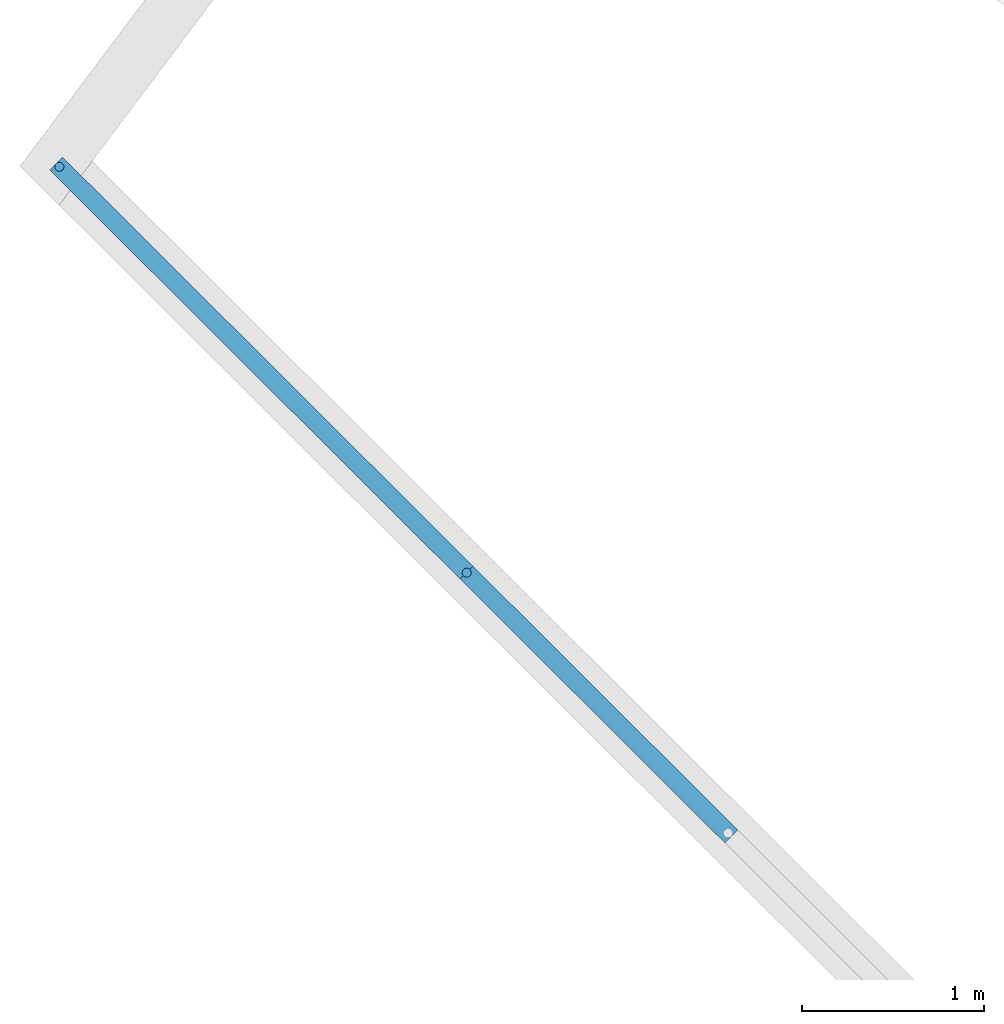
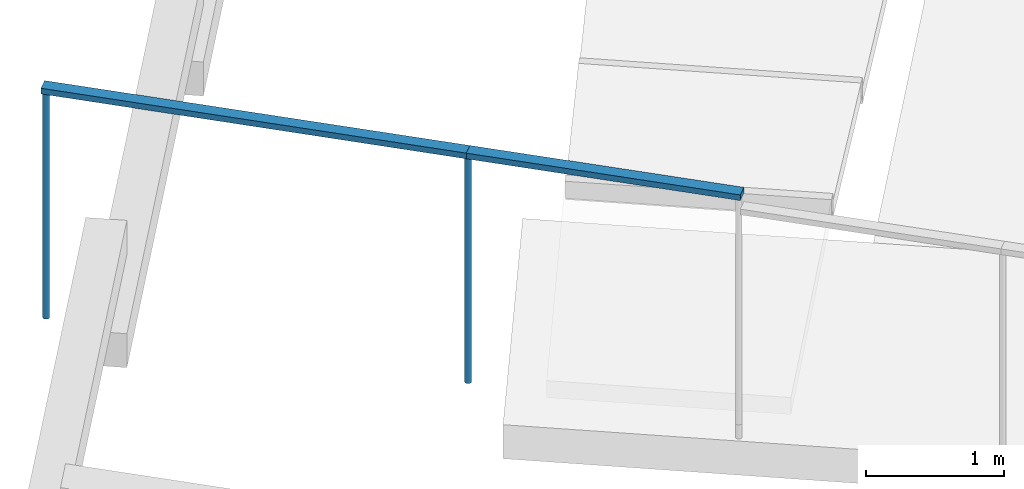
# One storey, part 13 of 33: 4 members, 1 element without a shape of its own.
"""IFC2X3 building model written with IfcOpenShell, lengths in metres."""

from ifc_helpers import new_model, entity, si_unit, converted_unit, derived_unit, direction, frame, frame_2d, origin, origin_2d_with_axis, place, context, subcontext, project, spatial, rectangle, circle, extrude, source, transform, mapped, material, type_object, type_shapes, element, aggregate, save


model = new_model("IFC2X3")

# Units and contexts
model_context = context("Model", 3, precision=1e-05, world=origin(), true_north=direction((6.123031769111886e-17, 1.0)))
body_context = subcontext(model_context, "Body", "Model", "MODEL_VIEW")
ifc_project = project(units=[si_unit("LENGTHUNIT", "METRE"), si_unit("AREAUNIT", "SQUARE_METRE"), si_unit("VOLUMEUNIT", "CUBIC_METRE"), converted_unit("PLANEANGLEUNIT", "DEGREE", entity("IfcRatioMeasure", 0.017453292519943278), si_unit("PLANEANGLEUNIT", "RADIAN"), dimensions=[0, 0, 0, 0, 0, 0, 0]), si_unit("MASSUNIT", "GRAM", prefix="KILO"), derived_unit("MASSDENSITYUNIT", [(si_unit("MASSUNIT", "GRAM", prefix="KILO"), 1), (si_unit("LENGTHUNIT", "METRE"), -3)]), derived_unit("IONCONCENTRATIONUNIT", [(si_unit("MASSUNIT", "GRAM", prefix="KILO"), 1), (si_unit("LENGTHUNIT", "METRE"), -3)]), derived_unit("MOMENTOFINERTIAUNIT", [(si_unit("LENGTHUNIT", "METRE"), 4)]), si_unit("TIMEUNIT", "SECOND"), si_unit("FREQUENCYUNIT", "HERTZ"), si_unit("THERMODYNAMICTEMPERATUREUNIT", "DEGREE_CELSIUS"), derived_unit("THERMALTRANSMITTANCEUNIT", [(si_unit("MASSUNIT", "GRAM", prefix="KILO"), 1), (si_unit("THERMODYNAMICTEMPERATUREUNIT", "KELVIN"), -1), (si_unit("TIMEUNIT", "SECOND"), -3)]), derived_unit("THERMALCONDUCTANCEUNIT", [(si_unit("MASSUNIT", "GRAM", prefix="KILO"), 1), (si_unit("THERMODYNAMICTEMPERATUREUNIT", "KELVIN"), -1), (si_unit("TIMEUNIT", "SECOND"), -3), (si_unit("LENGTHUNIT", "METRE"), 1)]), derived_unit("VOLUMETRICFLOWRATEUNIT", [(si_unit("LENGTHUNIT", "METRE"), 3), (si_unit("TIMEUNIT", "SECOND"), -1)]), derived_unit("MASSFLOWRATEUNIT", [(si_unit("MASSUNIT", "GRAM", prefix="KILO"), 1), (si_unit("TIMEUNIT", "SECOND"), -1)]), derived_unit("ROTATIONALFREQUENCYUNIT", [(si_unit("TIMEUNIT", "SECOND"), -1)]), si_unit("ELECTRICCURRENTUNIT", "AMPERE"), si_unit("ELECTRICVOLTAGEUNIT", "VOLT"), si_unit("POWERUNIT", "WATT"), si_unit("FORCEUNIT", "NEWTON", prefix="KILO"), si_unit("ILLUMINANCEUNIT", "LUX"), si_unit("LUMINOUSFLUXUNIT", "LUMEN"), si_unit("LUMINOUSINTENSITYUNIT", "CANDELA"), derived_unit("USERDEFINED", [(si_unit("MASSUNIT", "GRAM", prefix="KILO"), -1), (si_unit("LENGTHUNIT", "METRE"), -2), (si_unit("TIMEUNIT", "SECOND"), 3), (si_unit("LUMINOUSFLUXUNIT", "LUMEN"), 1)]), derived_unit("USERDEFINED", [(si_unit("MASSUNIT", "GRAM", prefix="KILO"), 1), (si_unit("TIMEUNIT", "SECOND"), -3), (si_unit("LENGTHUNIT", "METRE"), 3), (si_unit("ELECTRICCURRENTUNIT", "AMPERE"), -2)]), derived_unit("SOUNDPOWERUNIT", [(si_unit("MASSUNIT", "GRAM", prefix="KILO"), 1), (si_unit("TIMEUNIT", "SECOND"), -3), (si_unit("LENGTHUNIT", "METRE"), 2)]), derived_unit("SOUNDPRESSUREUNIT", [(si_unit("MASSUNIT", "GRAM", prefix="KILO"), 1), (si_unit("LENGTHUNIT", "METRE"), -1), (si_unit("TIMEUNIT", "SECOND"), -2)]), derived_unit("LINEARVELOCITYUNIT", [(si_unit("LENGTHUNIT", "METRE"), 1), (si_unit("TIMEUNIT", "SECOND"), -1)]), si_unit("PRESSUREUNIT", "PASCAL"), derived_unit("USERDEFINED", [(si_unit("MASSUNIT", "GRAM", prefix="KILO"), 1), (si_unit("LENGTHUNIT", "METRE"), -2), (si_unit("TIMEUNIT", "SECOND"), -2)]), derived_unit("LINEARFORCEUNIT", [(si_unit("MASSUNIT", "GRAM", prefix="KILO"), 1), (si_unit("TIMEUNIT", "SECOND"), -2)]), derived_unit("PLANARFORCEUNIT", [(si_unit("MASSUNIT", "GRAM", prefix="KILO"), 1), (si_unit("LENGTHUNIT", "METRE"), -1), (si_unit("TIMEUNIT", "SECOND"), -2)]), derived_unit("SPECIFICHEATCAPACITYUNIT", [(si_unit("THERMODYNAMICTEMPERATUREUNIT", "KELVIN"), -1), (si_unit("LENGTHUNIT", "METRE"), 2), (si_unit("TIMEUNIT", "SECOND"), -2)]), derived_unit("HEATINGVALUEUNIT", [(si_unit("LENGTHUNIT", "METRE"), 2), (si_unit("TIMEUNIT", "SECOND"), -2)]), derived_unit("VAPORPERMEABILITYUNIT", [(si_unit("LENGTHUNIT", "METRE"), -1), (si_unit("TIMEUNIT", "SECOND"), 1)]), derived_unit("DYNAMICVISCOSITYUNIT", [(si_unit("MASSUNIT", "GRAM", prefix="KILO"), 1), (si_unit("TIMEUNIT", "SECOND"), -1), (si_unit("LENGTHUNIT", "METRE"), -1)]), derived_unit("THERMALEXPANSIONCOEFFICIENTUNIT", [(si_unit("THERMODYNAMICTEMPERATUREUNIT", "KELVIN"), -1)]), derived_unit("MODULUSOFELASTICITYUNIT", [(si_unit("MASSUNIT", "GRAM", prefix="KILO"), 1), (si_unit("LENGTHUNIT", "METRE"), -1), (si_unit("TIMEUNIT", "SECOND"), -2)]), derived_unit("ISOTHERMALMOISTURECAPACITYUNIT", [(si_unit("LENGTHUNIT", "METRE"), 3), (si_unit("MASSUNIT", "GRAM", prefix="KILO"), -1)]), derived_unit("MOISTUREDIFFUSIVITYUNIT", [(si_unit("TIMEUNIT", "SECOND"), -1), (si_unit("LENGTHUNIT", "METRE"), 2)])], contexts=[model_context])

# Site, building, storey
site_placement = place(None, origin())
site = spatial("IfcSite", under=ifc_project, at=site_placement, Name="Superficie", CompositionType="ELEMENT")
building_placement = place(site_placement, frame((0.0, 0.0, 235.0), z_axis=(0.0, 0.0, 1.0), x_axis=(-0.7996477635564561, 0.6004693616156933, 0.0)))
building = spatial("IfcBuilding", under=site, at=building_placement, CompositionType="ELEMENT")
storey_placement = place(building_placement, origin())
storey = spatial("IfcBuildingStorey", under=building, at=storey_placement, Name="P0- Escola", CompositionType="ELEMENT", Elevation=0.0)

# Curtain wall, members
curtain_wall_type = type_object("IfcCurtainWallType", Name="Muro cortina:SER EXT- Tanca exterior", PredefinedType="NOTDEFINED")
curtain_wall_placement = place(storey_placement, origin())
curtain_wall = element("IfcCurtainWall", 1, at=curtain_wall_placement, inside=storey, type_object=curtain_wall_type, Name="Muro cortina:SER EXT- Tanca exterior", ObjectType="Muro cortina:SER EXT- Tanca exterior")
ifc_material_1 = material(Name="Acero inoxidable")
member_type_1 = type_object("IfcMemberType", Name="Montante circular:Perfil Tanca exterior", PredefinedType="MULLION", material=ifc_material_1)
shared_shape_1 = source(origin(), body_context, "Body", "SweptSolid", [
    extrude(circle(Radius=0.025, at=frame_2d((-2.1149748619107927e-18, -4.0388614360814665e-17), x_axis=(1.0, 0.0))), frame((0.0, 0.0, -2.0), z_axis=(0.0, 0.0, 1.0), x_axis=(-1.0, 0.0, 0.0)), (0.0, 0.0, 1.0), 1.9999999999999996),
])
type_shapes(member_type_1, [shared_shape_1])
member_1_placement = place(curtain_wall_placement, frame((76.54457006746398, -13.281312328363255, 3.0949999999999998), z_axis=(0.0, 0.0, -1.0), x_axis=(0.9902804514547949, -0.13908496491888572, 0.0)))
member_1 = element("IfcMember", 2, at=member_1_placement, type_object=member_type_1, material=ifc_material_1, Name="Montante circular:Perfil Tanca exterior", ObjectType="Montante circular:Perfil Tanca exterior", context=body_context, shape_type="MappedRepresentation", body=[
    mapped(shared_shape_1, transform((0.0, 0.0, 0.0), scale=1.0)),
])
member_type_2 = type_object("IfcMemberType", Name="Montante circular:Perfil Tanca exterior", PredefinedType="MULLION", material=ifc_material_1)
shared_shape_2 = source(origin(), body_context, "Body", "SweptSolid", [
    extrude(circle(Radius=0.025, at=frame_2d((1.3661718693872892e-31, -4.46185640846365e-17), x_axis=(1.0, 0.0))), frame((-0.025, 0.0, -2.0), z_axis=(0.0, 0.0, 1.0), x_axis=(-1.0, 0.0, 0.0)), (0.0, 0.0, 1.0), 1.9999999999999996),
])
type_shapes(member_type_2, [shared_shape_2])
member_2_placement = place(curtain_wall_placement, frame((79.6949220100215, -13.723779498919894, 3.0949999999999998), z_axis=(0.0, 0.0, -1.0), x_axis=(0.9902804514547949, -0.13908496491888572, 0.0)))
member_2 = element("IfcMember", 3, at=member_2_placement, type_object=member_type_2, material=ifc_material_1, Name="Montante circular:Perfil Tanca exterior", ObjectType="Montante circular:Perfil Tanca exterior", context=body_context, shape_type="MappedRepresentation", body=[
    mapped(shared_shape_2, transform((0.0, 0.0, 0.0), scale=1.0)),
])
ifc_material_2 = material(Name="_Formigó- Solera- T1- STR")
member_type_3 = type_object("IfcMemberType", Name="Montante rectangular:Montante rectangular 100x50", PredefinedType="MULLION", material=ifc_material_2)
shared_shape_3 = source(origin(), body_context, "Body", "SweptSolid", [
    extrude(rectangle(XDim=0.1, YDim=0.05000000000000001, at=origin_2d_with_axis()), frame((-0.025000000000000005, 0.0, -2.0499999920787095), z_axis=(0.0, 0.0, 1.0), x_axis=(0.0, -1.0, 0.0)), (0.0, 0.0, 1.0), 2.04999999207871),
])
type_shapes(member_type_3, [shared_shape_3])
member_3_placement = place(curtain_wall_placement, frame((76.54457006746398, -13.281312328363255, 5.145), z_axis=(0.9902804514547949, -0.13908496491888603, 0.0), x_axis=(0.0, 0.0, 1.0)))
member_3 = element("IfcMember", 4, at=member_3_placement, type_object=member_type_3, material=ifc_material_2, Name="Montante rectangular:Montante rectangular 100x50", ObjectType="Montante rectangular:Montante rectangular 100x50", context=body_context, shape_type="MappedRepresentation", body=[
    mapped(shared_shape_3, transform((0.0, 0.0, 0.0), scale=1.0)),
])
member_type_4 = type_object("IfcMemberType", Name="Montante rectangular:Montante rectangular 100x50", PredefinedType="MULLION", material=ifc_material_2)
shared_shape_4 = source(origin(), body_context, "Body", "SweptSolid", [
    extrude(rectangle(XDim=0.1, YDim=0.05000000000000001, at=origin_2d_with_axis()), frame((-0.025000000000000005, 0.0, -3.181272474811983), z_axis=(0.0, 0.0, 1.0), x_axis=(0.0, -1.0, 0.0)), (0.0, 0.0, 1.0), 3.1812724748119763),
])
type_shapes(member_type_4, [shared_shape_4])
member_4_placement = place(curtain_wall_placement, frame((79.69492201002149, -13.723779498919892, 5.145), z_axis=(0.9902804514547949, -0.1390849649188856, 0.0), x_axis=(0.0, 0.0, 1.0)))
member_4 = element("IfcMember", 5, at=member_4_placement, type_object=member_type_4, material=ifc_material_2, Name="Montante rectangular:Montante rectangular 100x50", ObjectType="Montante rectangular:Montante rectangular 100x50", context=body_context, shape_type="MappedRepresentation", body=[
    mapped(shared_shape_4, transform((0.0, 0.0, 0.0), scale=1.0)),
])
aggregate(curtain_wall, [member_1, member_2, member_4, member_3])

save(model, "model.ifc")
